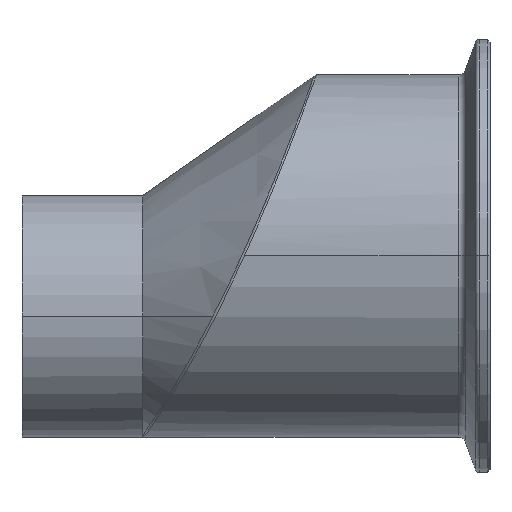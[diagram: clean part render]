
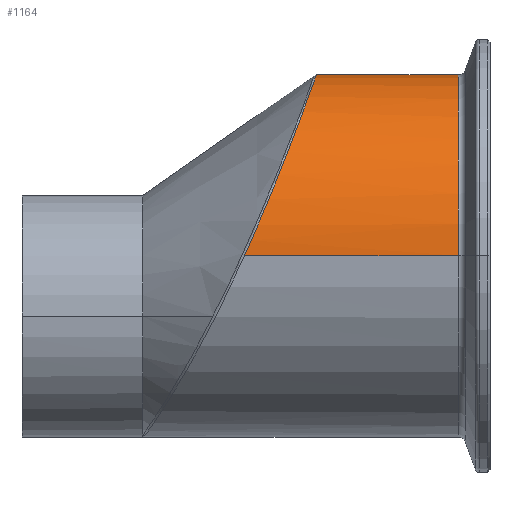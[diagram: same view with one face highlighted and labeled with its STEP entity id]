
A CAD part, top view. The second image highlights one B-rep face of the part: STEP entity #1164.
In plain terms, the highlighted cylindrical face has radius 38.1 mm (diameter 76.2 mm), a partial arc.
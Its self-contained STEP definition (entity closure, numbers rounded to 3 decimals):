
#32 = AXIS2_PLACEMENT_3D ( 'NONE', #960, #849, #947 ) ;
#34 = VERTEX_POINT ( 'NONE', #1501 ) ;
#44 = CARTESIAN_POINT ( 'NONE',  ( 9.979, 30.554, 22.769 ) ) ;
#60 = DIRECTION ( 'NONE',  ( -1., 0., 0. ) ) ;
#62 = CARTESIAN_POINT ( 'NONE',  ( 2.648, 11.748, -36.324 ) ) ;
#72 = CARTESIAN_POINT ( 'NONE',  ( 10.118, 30.933, 22.253 ) ) ;
#88 = CARTESIAN_POINT ( 'NONE',  ( 10.787, 32.751, 19.634 ) ) ;
#106 = CARTESIAN_POINT ( 'NONE',  ( 9.691, 29.776, 23.778 ) ) ;
#175 = CYLINDRICAL_SURFACE ( 'NONE', #1681, 38.1 ) ;
#195 = CARTESIAN_POINT ( 'NONE',  ( 7.724, 24.547, 29.165 ) ) ;
#215 = B_SPLINE_CURVE_WITH_KNOTS ( 'NONE', 3,
 ( #590, #1093, #726, #764, #771, #792, #256, #220, #62, #1987, #1736, #859, #896, #914, #963, #1044, #1055, #1062, #1103, #1267, #1306, #1388, #1397, #1431, #1438, #1450, #1456, #1471, #1555, #1561, #1566, #1572, #1590, #1606, #1619, #1692, #1704, #1748, #1762, #1768, #1874, #1907, #1979, #2010, #2018, #2051, #88, #72, #44, #106, #244, #250, #271, #366, #195, #389, #464, #414, #281, #428, #1916, #437, #453, #473, #555, #573 ),
 .UNSPECIFIED., .F., .F.,
 ( 4, 2, 2, 2, 2, 2, 2, 2, 2, 2, 2, 2, 2, 2, 2, 2, 2, 2, 2, 2, 2, 2, 2, 2, 2, 2, 2, 2, 2, 2, 2, 2, 4 ),
 ( 0.059, 0.063, 0.065, 0.067, 0.075, 0.079, 0.08, 0.082, 0.09, 0.094, 0.096, 0.098, 0.106, 0.108, 0.11, 0.113, 0.121, 0.123, 0.125, 0.129, 0.133, 0.135, 0.137, 0.144, 0.146, 0.148, 0.152, 0.156, 0.16, 0.168, 0.172, 0.175, 0.183 ),
 .UNSPECIFIED. ) ;
#220 = CARTESIAN_POINT ( 'NONE',  ( 1.692, 9.448, -36.988 ) ) ;
#231 = VERTEX_POINT ( 'NONE', #496 ) ;
#244 = CARTESIAN_POINT ( 'NONE',  ( 9.542, 29.376, 24.27 ) ) ;
#250 = CARTESIAN_POINT ( 'NONE',  ( 9.084, 28.146, 25.71 ) ) ;
#256 = CARTESIAN_POINT ( 'NONE',  ( 0.433, 6.5, -37.546 ) ) ;
#263 = CARTESIAN_POINT ( 'NONE',  ( 42.549, 0., -38.1 ) ) ;
#271 = CARTESIAN_POINT ( 'NONE',  ( 8.762, 27.286, 26.62 ) ) ;
#281 = CARTESIAN_POINT ( 'NONE',  ( 4.493, 16.276, 34.534 ) ) ;
#325 = EDGE_CURVE ( 'NONE', #710, #231, #943, .T. ) ;
#366 = CARTESIAN_POINT ( 'NONE',  ( 8.082, 25.486, 28.348 ) ) ;
#389 = CARTESIAN_POINT ( 'NONE',  ( 6.973, 22.592, 30.704 ) ) ;
#407 = ORIENTED_EDGE ( 'NONE', *, *, #325, .T. ) ;
#414 = CARTESIAN_POINT ( 'NONE',  ( 5.357, 18.447, 33.428 ) ) ;
#428 = CARTESIAN_POINT ( 'NONE',  ( 3.116, 12.896, 35.872 ) ) ;
#437 = CARTESIAN_POINT ( 'NONE',  ( 1.672, 9.415, 36.938 ) ) ;
#453 = CARTESIAN_POINT ( 'NONE',  ( 1.178, 8.246, 37.216 ) ) ;
#464 = CARTESIAN_POINT ( 'NONE',  ( 6.578, 21.571, 31.43 ) ) ;
#473 = CARTESIAN_POINT ( 'NONE',  ( -0.324, 4.728, 37.881 ) ) ;
#495 = CARTESIAN_POINT ( 'NONE',  ( 42.549, 0., 38.1 ) ) ;
#496 = CARTESIAN_POINT ( 'NONE',  ( -2.425, 0., -38.1 ) ) ;
#501 = VECTOR ( 'NONE', #1669, 1000. ) ;
#555 = CARTESIAN_POINT ( 'NONE',  ( -1.357, 2.369, 38.1 ) ) ;
#573 = CARTESIAN_POINT ( 'NONE',  ( -2.425, 0., 38.1 ) ) ;
#590 = CARTESIAN_POINT ( 'NONE',  ( -2.425, 0., -38.1 ) ) ;
#638 = EDGE_CURVE ( 'NONE', #1465, #34, #1475, .T. ) ;
#693 = ORIENTED_EDGE ( 'NONE', *, *, #1486, .T. ) ;
#710 = VERTEX_POINT ( 'NONE', #263 ) ;
#726 = CARTESIAN_POINT ( 'NONE',  ( -1.372, 2.353, -38.046 ) ) ;
#764 = CARTESIAN_POINT ( 'NONE',  ( -0.594, 4.127, -37.881 ) ) ;
#771 = CARTESIAN_POINT ( 'NONE',  ( -0.336, 4.719, -37.811 ) ) ;
#792 = CARTESIAN_POINT ( 'NONE',  ( 0.177, 5.906, -37.644 ) ) ;
#849 = DIRECTION ( 'NONE',  ( -1., 0., 0. ) ) ;
#859 = CARTESIAN_POINT ( 'NONE',  ( 5.112, 17.842, -33.67 ) ) ;
#896 = CARTESIAN_POINT ( 'NONE',  ( 5.326, 18.382, -33.378 ) ) ;
#914 = CARTESIAN_POINT ( 'NONE',  ( 5.749, 19.453, -32.765 ) ) ;
#943 = LINE ( 'NONE', #1531, #501 ) ;
#947 = DIRECTION ( 'NONE',  ( 0., 0., 1. ) ) ;
#960 = CARTESIAN_POINT ( 'NONE',  ( 42.549, 0., 0. ) ) ;
#963 = CARTESIAN_POINT ( 'NONE',  ( 5.958, 19.984, -32.444 ) ) ;
#1018 = VECTOR ( 'NONE', #60, 1000. ) ;
#1044 = CARTESIAN_POINT ( 'NONE',  ( 6.976, 22.589, -30.781 ) ) ;
#1055 = CARTESIAN_POINT ( 'NONE',  ( 7.721, 24.531, -29.257 ) ) ;
#1062 = CARTESIAN_POINT ( 'NONE',  ( 8.739, 27.226, -26.681 ) ) ;
#1076 = FACE_OUTER_BOUND ( 'NONE', #1777, .T. ) ;
#1081 = DIRECTION ( 'NONE',  ( 0., 0., 1. ) ) ;
#1088 = DIRECTION ( 'NONE',  ( -1., 0., 0. ) ) ;
#1093 = CARTESIAN_POINT ( 'NONE',  ( -1.895, 1.174, -38.1 ) ) ;
#1097 = ORIENTED_EDGE ( 'NONE', *, *, #638, .F. ) ;
#1103 = CARTESIAN_POINT ( 'NONE',  ( 9.062, 28.088, -25.774 ) ) ;
#1164 = ADVANCED_FACE ( 'NONE', ( #1076 ), #175, .T. ) ;
#1267 = CARTESIAN_POINT ( 'NONE',  ( 9.522, 29.322, -24.335 ) ) ;
#1306 = CARTESIAN_POINT ( 'NONE',  ( 9.672, 29.725, -23.842 ) ) ;
#1388 = CARTESIAN_POINT ( 'NONE',  ( 9.961, 30.506, -22.834 ) ) ;
#1397 = CARTESIAN_POINT ( 'NONE',  ( 10.1, 30.883, -22.321 ) ) ;
#1431 = CARTESIAN_POINT ( 'NONE',  ( 10.768, 32.7, -19.718 ) ) ;
#1438 = CARTESIAN_POINT ( 'NONE',  ( 11.218, 33.939, -17.502 ) ) ;
#1450 = CARTESIAN_POINT ( 'NONE',  ( 11.678, 35.212, -14.565 ) ) ;
#1456 = CARTESIAN_POINT ( 'NONE',  ( 11.764, 35.453, -13.969 ) ) ;
#1465 = VERTEX_POINT ( 'NONE', #495 ) ;
#1471 = CARTESIAN_POINT ( 'NONE',  ( 11.927, 35.906, -12.76 ) ) ;
#1475 = LINE ( 'NONE', #2008, #1018 ) ;
#1486 = EDGE_CURVE ( 'NONE', #1465, #710, #1846, .T. ) ;
#1501 = CARTESIAN_POINT ( 'NONE',  ( -2.425, 0., 38.1 ) ) ;
#1531 = CARTESIAN_POINT ( 'NONE',  ( -47.684, 0., -38.1 ) ) ;
#1536 = ORIENTED_EDGE ( 'NONE', *, *, #1691, .T. ) ;
#1555 = CARTESIAN_POINT ( 'NONE',  ( 12.004, 36.119, -12.144 ) ) ;
#1561 = CARTESIAN_POINT ( 'NONE',  ( 12.215, 36.708, -10.286 ) ) ;
#1566 = CARTESIAN_POINT ( 'NONE',  ( 12.332, 37.035, -9.036 ) ) ;
#1572 = CARTESIAN_POINT ( 'NONE',  ( 12.613, 37.824, -5.251 ) ) ;
#1590 = CARTESIAN_POINT ( 'NONE',  ( 12.709, 38.095, -2.682 ) ) ;
#1606 = CARTESIAN_POINT ( 'NONE',  ( 12.711, 38.101, 0.587 ) ) ;
#1619 = CARTESIAN_POINT ( 'NONE',  ( 12.706, 38.085, 1.242 ) ) ;
#1669 = DIRECTION ( 'NONE',  ( -1., 0., 0. ) ) ;
#1681 = AXIS2_PLACEMENT_3D ( 'NONE', #1967, #1088, #1081 ) ;
#1691 = EDGE_CURVE ( 'NONE', #231, #34, #215, .T. ) ;
#1692 = CARTESIAN_POINT ( 'NONE',  ( 12.683, 38.021, 2.542 ) ) ;
#1704 = CARTESIAN_POINT ( 'NONE',  ( 12.665, 37.972, 3.189 ) ) ;
#1736 = CARTESIAN_POINT ( 'NONE',  ( 4.461, 16.21, -34.501 ) ) ;
#1748 = CARTESIAN_POINT ( 'NONE',  ( 12.596, 37.776, 5.121 ) ) ;
#1762 = CARTESIAN_POINT ( 'NONE',  ( 12.526, 37.581, 6.396 ) ) ;
#1768 = CARTESIAN_POINT ( 'NONE',  ( 12.342, 37.063, 8.922 ) ) ;
#1777 = EDGE_LOOP ( 'NONE', ( #693, #407, #1536, #1097 ) ) ;
#1846 = CIRCLE ( 'NONE', #32, 38.1 ) ;
#1874 = CARTESIAN_POINT ( 'NONE',  ( 12.226, 36.74, 10.173 ) ) ;
#1907 = CARTESIAN_POINT ( 'NONE',  ( 12.017, 36.157, 12.03 ) ) ;
#1916 = CARTESIAN_POINT ( 'NONE',  ( 2.643, 11.747, 36.264 ) ) ;
#1967 = CARTESIAN_POINT ( 'NONE',  ( -47.684, 0., 0. ) ) ;
#1979 = CARTESIAN_POINT ( 'NONE',  ( 11.941, 35.945, 12.647 ) ) ;
#1987 = CARTESIAN_POINT ( 'NONE',  ( 4.016, 15.106, -34.998 ) ) ;
#2008 = CARTESIAN_POINT ( 'NONE',  ( -47.684, 0., 38.1 ) ) ;
#2010 = CARTESIAN_POINT ( 'NONE',  ( 11.78, 35.495, 13.861 ) ) ;
#2018 = CARTESIAN_POINT ( 'NONE',  ( 11.693, 35.256, 14.459 ) ) ;
#2051 = CARTESIAN_POINT ( 'NONE',  ( 11.236, 33.988, 17.408 ) ) ;
